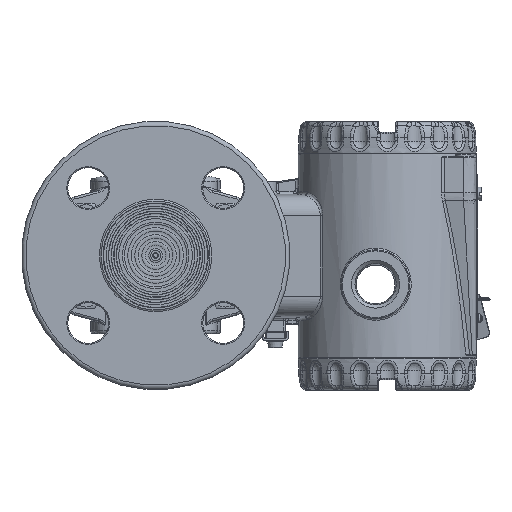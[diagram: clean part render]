
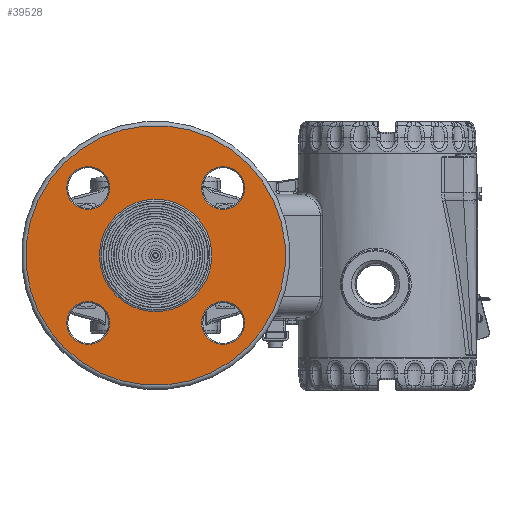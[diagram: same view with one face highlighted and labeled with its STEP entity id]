
A CAD part, top view. The second image highlights one B-rep face of the part: STEP entity #39528.
In plain terms, the highlighted planar face has unit normal (0, 0, 1) as drawn and (-1, 0, 0) by its records, which use the part's own axes.
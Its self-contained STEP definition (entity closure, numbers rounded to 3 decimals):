
#652=FACE_BOUND('',#6525,.T.);
#653=FACE_BOUND('',#6526,.T.);
#654=FACE_BOUND('',#6527,.T.);
#655=FACE_BOUND('',#6528,.T.);
#656=FACE_BOUND('',#6529,.T.);
#2532=PLANE('',#43916);
#3891=FACE_OUTER_BOUND('',#6524,.T.);
#6524=EDGE_LOOP('',(#30218,#30219));
#6525=EDGE_LOOP('',(#30220));
#6526=EDGE_LOOP('',(#30221));
#6527=EDGE_LOOP('',(#30222,#30223));
#6528=EDGE_LOOP('',(#30224));
#6529=EDGE_LOOP('',(#30225));
#13037=CIRCLE('',#43915,10.);
#13038=CIRCLE('',#43917,60.5);
#13039=CIRCLE('',#43918,60.5);
#13040=CIRCLE('',#43919,10.);
#13041=CIRCLE('',#43920,10.);
#13042=CIRCLE('',#43921,26.2);
#13043=CIRCLE('',#43922,26.2);
#13044=CIRCLE('',#43923,10.);
#17314=VERTEX_POINT('',#69931);
#17315=VERTEX_POINT('',#69935);
#17316=VERTEX_POINT('',#69936);
#17317=VERTEX_POINT('',#69939);
#17318=VERTEX_POINT('',#69941);
#17319=VERTEX_POINT('',#69943);
#17320=VERTEX_POINT('',#69944);
#17321=VERTEX_POINT('',#69947);
#21883=EDGE_CURVE('',#17314,#17314,#13037,.T.);
#21885=EDGE_CURVE('',#17315,#17316,#13038,.T.);
#21886=EDGE_CURVE('',#17316,#17315,#13039,.T.);
#21887=EDGE_CURVE('',#17317,#17317,#13040,.T.);
#21888=EDGE_CURVE('',#17318,#17318,#13041,.T.);
#21889=EDGE_CURVE('',#17319,#17320,#13042,.T.);
#21890=EDGE_CURVE('',#17320,#17319,#13043,.T.);
#21891=EDGE_CURVE('',#17321,#17321,#13044,.T.);
#30218=ORIENTED_EDGE('',*,*,#21885,.F.);
#30219=ORIENTED_EDGE('',*,*,#21886,.F.);
#30220=ORIENTED_EDGE('',*,*,#21887,.F.);
#30221=ORIENTED_EDGE('',*,*,#21888,.F.);
#30222=ORIENTED_EDGE('',*,*,#21889,.T.);
#30223=ORIENTED_EDGE('',*,*,#21890,.T.);
#30224=ORIENTED_EDGE('',*,*,#21891,.F.);
#30225=ORIENTED_EDGE('',*,*,#21883,.F.);
#39528=ADVANCED_FACE('',(#3891,#652,#653,#654,#655,#656),#2532,.T.);
#43915=AXIS2_PLACEMENT_3D('',#69932,#51727,#51728);
#43916=AXIS2_PLACEMENT_3D('',#69934,#51730,#51731);
#43917=AXIS2_PLACEMENT_3D('',#69937,#51732,#51733);
#43918=AXIS2_PLACEMENT_3D('',#69938,#51734,#51735);
#43919=AXIS2_PLACEMENT_3D('',#69940,#51736,#51737);
#43920=AXIS2_PLACEMENT_3D('',#69942,#51738,#51739);
#43921=AXIS2_PLACEMENT_3D('',#69945,#51740,#51741);
#43922=AXIS2_PLACEMENT_3D('',#69946,#51742,#51743);
#43923=AXIS2_PLACEMENT_3D('',#69948,#51744,#51745);
#51727=DIRECTION('center_axis',(-1.,0.,0.));
#51728=DIRECTION('ref_axis',(0.,-1.,0.));
#51730=DIRECTION('center_axis',(-1.,0.,0.));
#51731=DIRECTION('ref_axis',(0.,0.,1.));
#51732=DIRECTION('center_axis',(1.,0.,0.));
#51733=DIRECTION('ref_axis',(0.,1.,0.));
#51734=DIRECTION('center_axis',(1.,0.,0.));
#51735=DIRECTION('ref_axis',(0.,1.,0.));
#51736=DIRECTION('center_axis',(-1.,0.,0.));
#51737=DIRECTION('ref_axis',(0.,0.,1.));
#51738=DIRECTION('center_axis',(-1.,0.,0.));
#51739=DIRECTION('ref_axis',(0.,0.,-1.));
#51740=DIRECTION('center_axis',(1.,0.,0.));
#51741=DIRECTION('ref_axis',(0.,1.,0.));
#51742=DIRECTION('center_axis',(1.,0.,0.));
#51743=DIRECTION('ref_axis',(0.,1.,0.));
#51744=DIRECTION('center_axis',(-1.,0.,0.));
#51745=DIRECTION('ref_axis',(0.,1.,0.));
#69931=CARTESIAN_POINT('',(2.,54.45,0.));
#69932=CARTESIAN_POINT('Origin',(2.,44.45,0.));
#69934=CARTESIAN_POINT('Origin',(2.,43.35,0.));
#69935=CARTESIAN_POINT('',(2.,60.5,0.));
#69936=CARTESIAN_POINT('',(2.,0.,60.5));
#69937=CARTESIAN_POINT('Origin',(2.,0.,0.));
#69938=CARTESIAN_POINT('Origin',(2.,0.,0.));
#69939=CARTESIAN_POINT('',(2.,0.,-54.45));
#69940=CARTESIAN_POINT('Origin',(2.,0.,-44.45));
#69941=CARTESIAN_POINT('',(2.,0.,54.45));
#69942=CARTESIAN_POINT('Origin',(2.,0.,44.45));
#69943=CARTESIAN_POINT('',(2.,26.2,0.));
#69944=CARTESIAN_POINT('',(2.,0.,26.2));
#69945=CARTESIAN_POINT('Origin',(2.,0.,0.));
#69946=CARTESIAN_POINT('Origin',(2.,0.,0.));
#69947=CARTESIAN_POINT('',(2.,-54.45,0.));
#69948=CARTESIAN_POINT('Origin',(2.,-44.45,0.));
